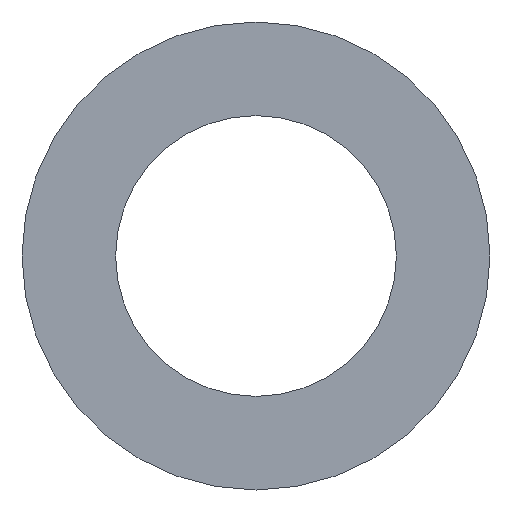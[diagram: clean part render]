
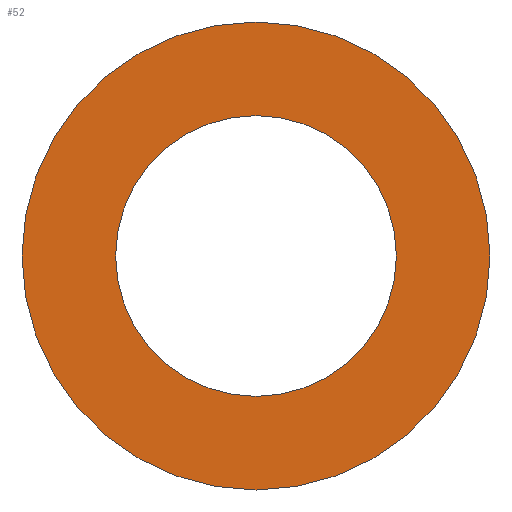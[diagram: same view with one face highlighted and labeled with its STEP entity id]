
A CAD part, front view. The second image highlights one B-rep face of the part: STEP entity #52.
In plain terms, the highlighted planar face has unit normal (0, -1, 0).
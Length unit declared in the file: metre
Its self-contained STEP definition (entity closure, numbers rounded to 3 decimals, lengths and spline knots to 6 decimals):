
#14=ORIENTED_EDGE('',*,*,#22,.T.);
#15=ORIENTED_EDGE('',*,*,#23,.F.);
#22=EDGE_CURVE('',#26,#26,#30,.T.);
#23=EDGE_CURVE('',#27,#27,#31,.T.);
#26=VERTEX_POINT('',#98);
#27=VERTEX_POINT('',#100);
#30=CIRCLE('',#70,0.0015);
#31=CIRCLE('',#71,0.0009);
#34=EDGE_LOOP('',(#14));
#35=EDGE_LOOP('',(#15));
#42=FACE_BOUND('',#34,.T.);
#43=FACE_BOUND('',#35,.T.);
#50=PLANE('',#69);
#52=ADVANCED_FACE('',(#42,#43),#50,.T.);
#69=AXIS2_PLACEMENT_3D('',#96,#79,#80);
#70=AXIS2_PLACEMENT_3D('',#97,#81,#82);
#71=AXIS2_PLACEMENT_3D('',#99,#83,#84);
#79=DIRECTION('',(0.,-1.,0.));
#80=DIRECTION('',(-1.,0.,0.));
#81=DIRECTION('',(0.,-1.,0.));
#82=DIRECTION('',(-1.,0.,0.));
#83=DIRECTION('',(0.,-1.,0.));
#84=DIRECTION('',(-1.,0.,0.));
#96=CARTESIAN_POINT('',(-0.092677,-0.060301,-0.025701));
#97=CARTESIAN_POINT('',(-0.092677,-0.060301,-0.025701));
#98=CARTESIAN_POINT('',(-0.094177,-0.060301,-0.025701));
#99=CARTESIAN_POINT('',(-0.092677,-0.060301,-0.025701));
#100=CARTESIAN_POINT('',(-0.093577,-0.060301,-0.025701));
